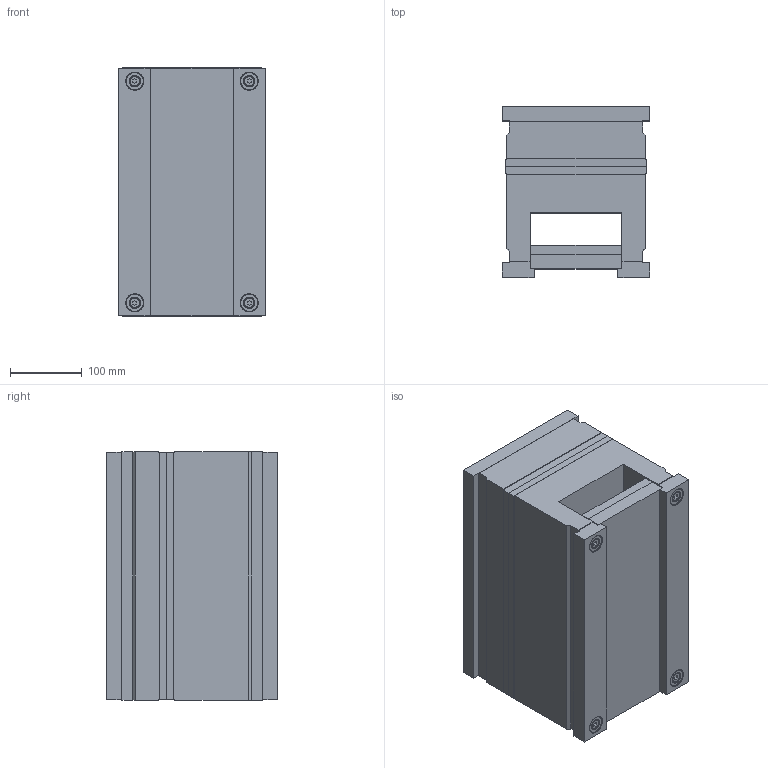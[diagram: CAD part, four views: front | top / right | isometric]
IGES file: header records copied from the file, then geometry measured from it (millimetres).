
Start section: SolidWorks IGES FILE using analytic representation for surfaces
Global section: file name: C:\Documents and Settings\K.P\My Documents\Mechanical\ALMO\CATL_EUR\RECT\1964.IGS; native system: SolidWorks 2001Plus by SolidWorks Corporation; preprocessor: Version 5.3; author: Pavel; date: 020709.092041; units: millimetre
Bounding box: 206 x 239 x 348 mm (x, y, z)
Surface area: 932339 mm2 (no closed solid volume)
Topology: 0 solids, 0 shells, 706 faces, 10312 edges, 10304 vertices
Faces by surface type: revolution 452, bspline 254
